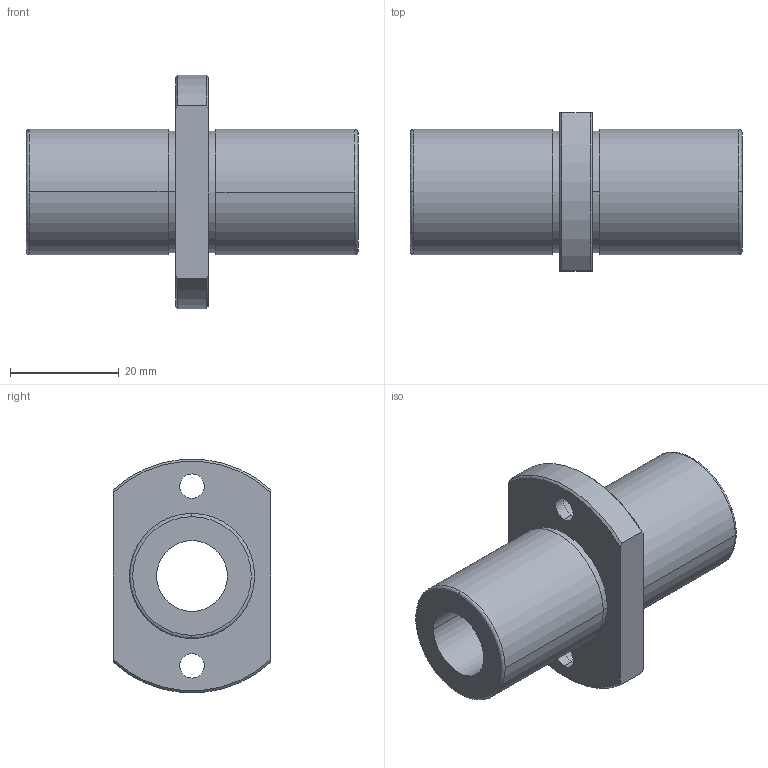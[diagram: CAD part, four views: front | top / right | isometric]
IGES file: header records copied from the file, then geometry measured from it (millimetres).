
Start section: 3D InterOp IGES (Version 21 0 1), Spatial Corp. Copyright (c) 1999-2007.
Global section: file name: NFCO-13VLUU.igs; native system: Spatial Corp.; preprocessor: 3D InterOp GENERIC/IGES 3.0; author: Noname; organization: Noname; date: 20220308.143508; units: millimetre
Bounding box: 61 x 29 x 42.85 mm (x, y, z)
Surface area: 9460.7 mm2 (no closed solid volume)
Topology: 0 solids, 0 shells, 38 faces, 180 edges, 180 vertices
Faces by surface type: revolution 28, extrusion 10
